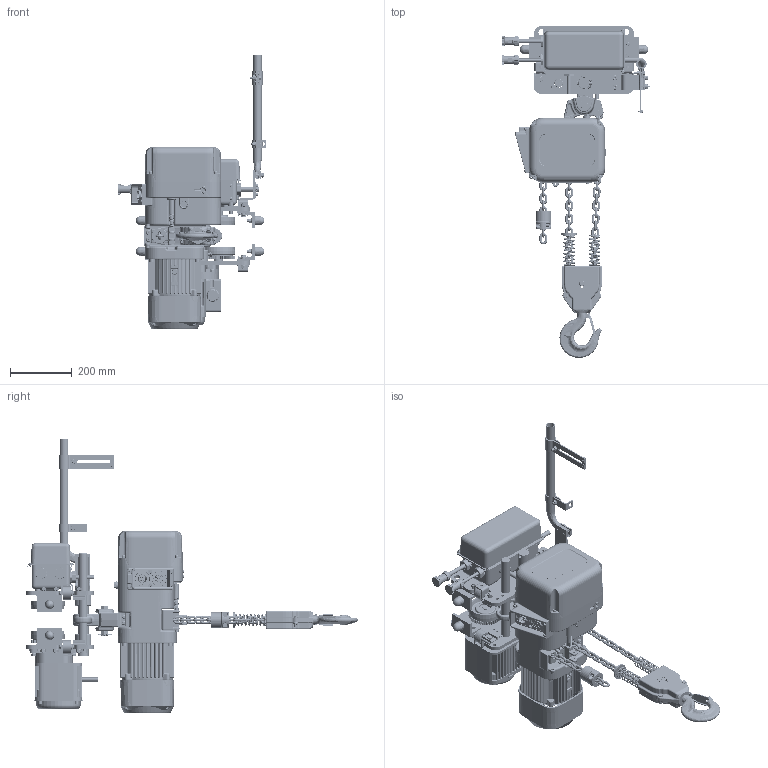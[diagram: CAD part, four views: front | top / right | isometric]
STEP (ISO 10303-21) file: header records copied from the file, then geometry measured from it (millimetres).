
FILE_DESCRIPTION (( 'STEP AP214' ), '1' );
FILE_NAME ('NER2M020C-L.STEP', '2026-08-06T12:51:34', ( '' ), ( '' ), 'SwSTEP 2.0', 'SolidWorks 2026', '' );
FILE_SCHEMA (( 'AUTOMOTIVE_DESIGN' ));
Length unit declared in the file: inch
Products named in the file (147): J1WS011-20080_Rectangular section spring washer BS 4464 - 16 (Type B); ER2CS9123; MR1DS1493; LCER2010NP; MR2DS92171; LCER2010NP (SHAPED 2); E6F151003; MS006020; MR1DS9421; 16-4 (MR2); 9009432_9009432; single coil rectangular section spring washer_bsi_9012711; ER2BHM10S9A5; basic external retaining ring_am_9047120; 16-6 (MR2); MR1ES9204; ER2BHM20S9A6; KITO-WASHER; ER2DS9331; M2049010; socket head cap screw_am_B18.3.1M - 6 x 1.0 x 12 Hex SHCS -- 12CHX; 9012513; ER2DR1011; 16-6P (MR2); ECP5924AH; MR1DS9324; hex cap screw_am_9093329; MR1ES9203; MR1ES9205; MS517010; J1BG10604040_J1BG10604040; 12-4 (MR2); MR1ES9634; M2041010; ECP5924AC1; ER2DS9104_ER2DS9104; E6L614010S; ER2DL9105; ER2CS9186; ES558003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
Assembly tree (385 placements, depth 6):
  NER2M020C-L
    NER2020C_No Top Hook
      ER2DS9104_ER2DS9104
      ER2DS9103
      ER2DS9101
      ER2DL9105
      ER2CS9107_ER2CS9107
      ER2DR9030
      ER2DR1011
        ER2DR9011
        ER2DR2015
          ER2DR9015  x2
          J1BA1-0803022_B18.2.3.1M - Hex cap screw, M8 x 1.25 x 30 --30C  x2
          J1WS011-20080_Rectangular section spring washer BS 4464 - 16 (Type B)  x2
          J1NA001-20080_B18.2.4.1M - Hex nut, Style 1,  M8 x 1.25 --D-C  x2
        ER2ES1002
      ER2DS9331
      ER2DS9337
      ER2DS9338
      ER2CS9357
      ER2CS9511
      LCER2010NP_18
        LCER2010NP  x18
      LCER2010NP FOR DOUBLE FALL
        LCER2010NP  x25
      ER1DS9051  x2
      J1BG10604040_J1BG10604040  x4
      E3S111003  x2
      E3S112003  x2
      9091234_B18.3.1M - 5 x 0.8 x 45 Hex SHCS -- 22CHX  x4
      9091296_9091296  x4
      ES127005S
      ER1BS9135
      ER2CS9121  x2
      ER2CS9123
      socket head cap screw_am_B18.3.1M - 6 x 1.0 x 12 Hex SHCS -- 12CHX
      ER2CS9186
      single coil rectangular section spring washer_bsi_9012711  x4
      socket head cap screw_am_9091274  x4
      ER2CS2523
      ER2CS2564
      ER1BS9535
      M6F554010  x2
      MS561010  x6
      ES558003  x8
      ER2DR9054
      LCER2010NP (SHAPED 2)
        LCER2010NP  x16
      ER1DS1041  x2
      ER1DS9053  x2
      ER1ES9032
      hex slotted nut_ai_ES088020
      9009436_9009436
      M2041010
      M2049010
      9009412_9009412
      ER2BHM10S9A5
      ER2BHM20S9A6
    MR2020L_5" FLANGE
      MR1ES5202
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Bounding box: 482.18 x 1075.04 x 886 mm (x, y, z)
Volume: 21530383 mm3; surface area: 3816134.8 mm2
Topology: 423 solids, 444 shells, 16421 faces, 41944 edges, 26497 vertices
Faces by surface type: plane 6851, cylinder 5184, torus 1514, cone 1449, bspline 1145, sphere 278
Entity records: 391627 total; most frequent: CARTESIAN_POINT 147240, ORIENTED_EDGE 49804, DIRECTION 48856, EDGE_CURVE 24904, AXIS2_PLACEMENT_3D 18662, VERTEX_POINT 15856, LINE 11532, VECTOR 11532
